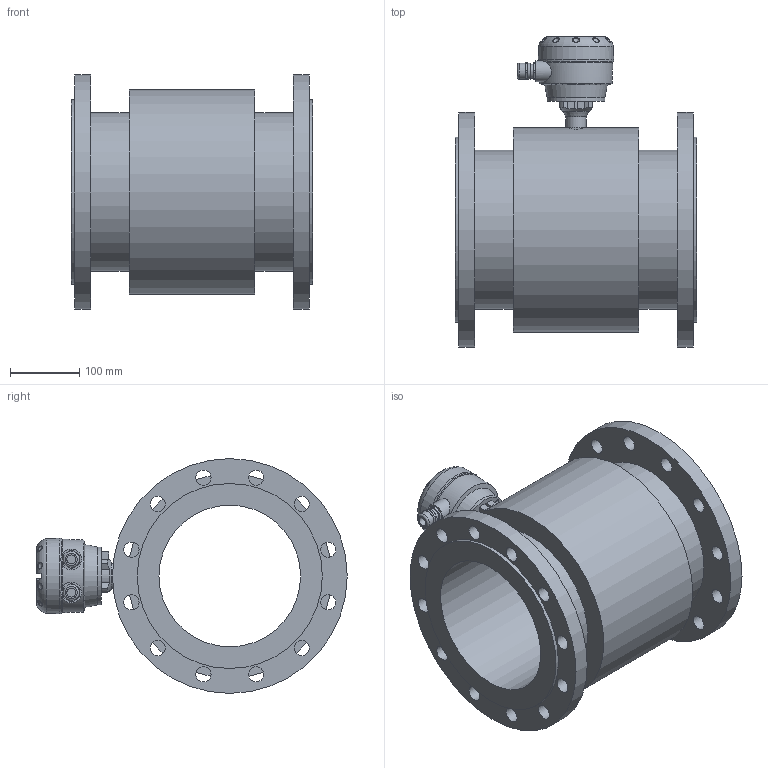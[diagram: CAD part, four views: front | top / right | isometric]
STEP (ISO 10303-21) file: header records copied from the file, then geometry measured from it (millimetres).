
FILE_DESCRIPTION (( 'STEP AP203' ), '1' );
FILE_NAME ('KROHNE_OPTIFLUX_2-4000W-WATERFLUX_3000F_DIN2633_DN200_PN16.STEP', '2011-04-26T11:24:25', ( '' ), ( '' ), 'SwSTEP 2.0', 'SolidWorks 2010', '' );
FILE_SCHEMA (( 'CONFIG_CONTROL_DESIGN' ));
Length unit declared in the file: millimetre
Products named in the file (1): KROHNE_OPTIFLUX_2-4000W-WATERFLUX_3000F_DIN2633_DN200_PN16
Bounding box: 350 x 449.49 x 340 mm (x, y, z)
Volume: 10950982.4 mm3; surface area: 924733.6 mm2
Topology: 14 solids, 14 shells, 351 faces, 869 edges, 568 vertices
Faces by surface type: plane 158, cylinder 101, bspline 53, torus 18, sphere 13, cone 8
Full cylindrical faces by diameter (mm): 4 x4, 6.6 x8, 13 x2, 20 x2, 22 x24, 23.5 x4, 29 x1, 30 x2, 84 x2, 109 x1, 205.1 x1, 230.1 x2, 268 x2, 296 x1, 340 x2
Entity records: 14264 total; most frequent: CARTESIAN_POINT 6539, ORIENTED_EDGE 1494, DIRECTION 1461, EDGE_CURVE 747, AXIS2_PLACEMENT_3D 549, EDGE_LOOP 534, VERTEX_POINT 531, FACE_OUTER_BOUND 426
